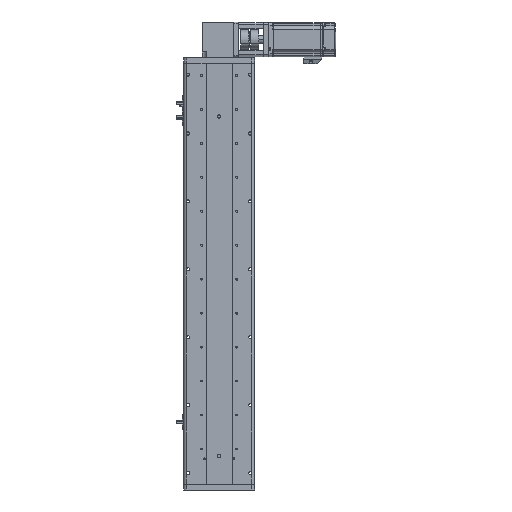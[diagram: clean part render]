
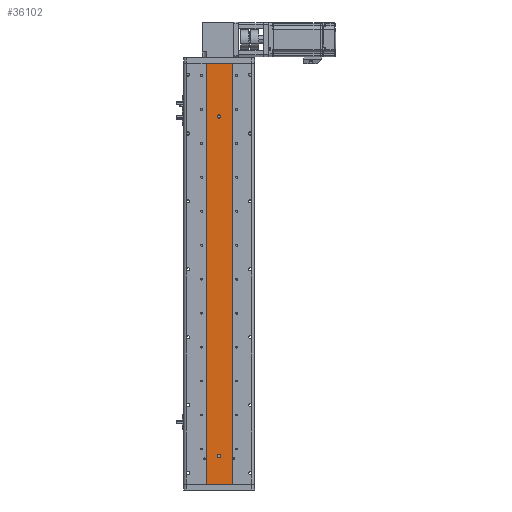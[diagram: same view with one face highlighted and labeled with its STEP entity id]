
A CAD part, front view. The second image highlights one B-rep face of the part: STEP entity #36102.
In plain terms, the highlighted planar face has unit normal (0, -1, 0).
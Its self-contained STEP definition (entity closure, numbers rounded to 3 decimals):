
#502 = VECTOR ( 'NONE', #42090, 1000. ) ;
#597 = VECTOR ( 'NONE', #44721, 1000. ) ;
#747 = DIRECTION ( 'NONE',  ( 0., -1., 0. ) ) ;
#1094 = CARTESIAN_POINT ( 'NONE',  ( 23., 1., 372.001 ) ) ;
#1197 = VECTOR ( 'NONE', #28977, 1000. ) ;
#1340 = EDGE_CURVE ( 'NONE', #29723, #38458, #13971, .T. ) ;
#3869 = CIRCLE ( 'NONE', #47149, 3. ) ;
#4368 = CARTESIAN_POINT ( 'NONE',  ( 23., 1., 372.001 ) ) ;
#4372 = ORIENTED_EDGE ( 'NONE', *, *, #4980, .F. ) ;
#4950 = AXIS2_PLACEMENT_3D ( 'NONE', #15044, #47643, #19702 ) ;
#4980 = EDGE_CURVE ( 'NONE', #28660, #25051, #3869, .T. ) ;
#5227 = ORIENTED_EDGE ( 'NONE', *, *, #1340, .T. ) ;
#8116 = EDGE_LOOP ( 'NONE', ( #21936, #5227, #12827, #11034 ) ) ;
#9711 = EDGE_CURVE ( 'NONE', #27164, #21560, #19755, .T. ) ;
#11034 = ORIENTED_EDGE ( 'NONE', *, *, #23823, .F. ) ;
#12357 = CARTESIAN_POINT ( 'NONE',  ( -23., 1., 372. ) ) ;
#12596 = CARTESIAN_POINT ( 'NONE',  ( 0., 1., -319. ) ) ;
#12827 = ORIENTED_EDGE ( 'NONE', *, *, #14597, .F. ) ;
#13169 = CARTESIAN_POINT ( 'NONE',  ( 0., 1., -322. ) ) ;
#13564 = LINE ( 'NONE', #1094, #1197 ) ;
#13742 = DIRECTION ( 'NONE',  ( 0., 0., 1. ) ) ;
#13971 = LINE ( 'NONE', #18533, #51179 ) ;
#14597 = EDGE_CURVE ( 'NONE', #14738, #38458, #13564, .T. ) ;
#14738 = VERTEX_POINT ( 'NONE', #39504 ) ;
#15044 = CARTESIAN_POINT ( 'NONE',  ( 0., 1., -322. ) ) ;
#15749 = ORIENTED_EDGE ( 'NONE', *, *, #9711, .F. ) ;
#16840 = CARTESIAN_POINT ( 'NONE',  ( -23., 1., 372.001 ) ) ;
#17843 = DIRECTION ( 'NONE',  ( 0., 0., -1. ) ) ;
#18533 = CARTESIAN_POINT ( 'NONE',  ( 23., 1., -372. ) ) ;
#19702 = DIRECTION ( 'NONE',  ( 0., 0., -1. ) ) ;
#19755 = CIRCLE ( 'NONE', #4950, 3. ) ;
#20370 = CARTESIAN_POINT ( 'NONE',  ( 23., 1., -372. ) ) ;
#21334 = FACE_BOUND ( 'NONE', #38601, .T. ) ;
#21560 = VERTEX_POINT ( 'NONE', #36029 ) ;
#21936 = ORIENTED_EDGE ( 'NONE', *, *, #46998, .T. ) ;
#22704 = EDGE_LOOP ( 'NONE', ( #4372, #52437 ) ) ;
#23234 = DIRECTION ( 'NONE',  ( 1., 0., 0. ) ) ;
#23823 = EDGE_CURVE ( 'NONE', #25838, #14738, #25266, .T. ) ;
#25051 = VERTEX_POINT ( 'NONE', #33195 ) ;
#25266 = LINE ( 'NONE', #37569, #502 ) ;
#25367 = LINE ( 'NONE', #16840, #597 ) ;
#25838 = VERTEX_POINT ( 'NONE', #12357 ) ;
#26732 = CIRCLE ( 'NONE', #27839, 3. ) ;
#26770 = DIRECTION ( 'NONE',  ( 0., -1., 0. ) ) ;
#27164 = VERTEX_POINT ( 'NONE', #12596 ) ;
#27839 = AXIS2_PLACEMENT_3D ( 'NONE', #13169, #45748, #17843 ) ;
#28122 = CARTESIAN_POINT ( 'NONE',  ( -23., 1., -372. ) ) ;
#28623 = CARTESIAN_POINT ( 'NONE',  ( 0., 1., 278. ) ) ;
#28660 = VERTEX_POINT ( 'NONE', #50707 ) ;
#28977 = DIRECTION ( 'NONE',  ( 0., 0., -1. ) ) ;
#29723 = VERTEX_POINT ( 'NONE', #28122 ) ;
#32212 = PLANE ( 'NONE',  #51932 ) ;
#33195 = CARTESIAN_POINT ( 'NONE',  ( 0., 1., 281. ) ) ;
#33283 = DIRECTION ( 'NONE',  ( 0., 0., -1. ) ) ;
#36029 = CARTESIAN_POINT ( 'NONE',  ( 0., 1., -325. ) ) ;
#36102 = ADVANCED_FACE ( 'NONE', ( #44694, #21334, #57107 ), #32212, .F. ) ;
#37569 = CARTESIAN_POINT ( 'NONE',  ( 23., 1., 372. ) ) ;
#38458 = VERTEX_POINT ( 'NONE', #20370 ) ;
#38601 = EDGE_LOOP ( 'NONE', ( #44040, #15749 ) ) ;
#39504 = CARTESIAN_POINT ( 'NONE',  ( 23., 1., 372. ) ) ;
#40362 = EDGE_CURVE ( 'NONE', #25051, #28660, #54810, .T. ) ;
#41627 = DIRECTION ( 'NONE',  ( 0., 1., 0. ) ) ;
#42090 = DIRECTION ( 'NONE',  ( 1., 0., 0. ) ) ;
#44040 = ORIENTED_EDGE ( 'NONE', *, *, #55842, .F. ) ;
#44694 = FACE_BOUND ( 'NONE', #22704, .T. ) ;
#44721 = DIRECTION ( 'NONE',  ( 0., 0., -1. ) ) ;
#44902 = AXIS2_PLACEMENT_3D ( 'NONE', #28623, #747, #33283 ) ;
#45748 = DIRECTION ( 'NONE',  ( 0., -1., 0. ) ) ;
#46998 = EDGE_CURVE ( 'NONE', #25838, #29723, #25367, .T. ) ;
#47149 = AXIS2_PLACEMENT_3D ( 'NONE', #54701, #26770, #59349 ) ;
#47643 = DIRECTION ( 'NONE',  ( 0., -1., 0. ) ) ;
#50707 = CARTESIAN_POINT ( 'NONE',  ( 0., 1., 275. ) ) ;
#51179 = VECTOR ( 'NONE', #23234, 1000. ) ;
#51932 = AXIS2_PLACEMENT_3D ( 'NONE', #4368, #41627, #13742 ) ;
#52437 = ORIENTED_EDGE ( 'NONE', *, *, #40362, .F. ) ;
#54701 = CARTESIAN_POINT ( 'NONE',  ( 0., 1., 278. ) ) ;
#54810 = CIRCLE ( 'NONE', #44902, 3. ) ;
#55842 = EDGE_CURVE ( 'NONE', #21560, #27164, #26732, .T. ) ;
#57107 = FACE_OUTER_BOUND ( 'NONE', #8116, .T. ) ;
#59349 = DIRECTION ( 'NONE',  ( 0., 0., -1. ) ) ;
